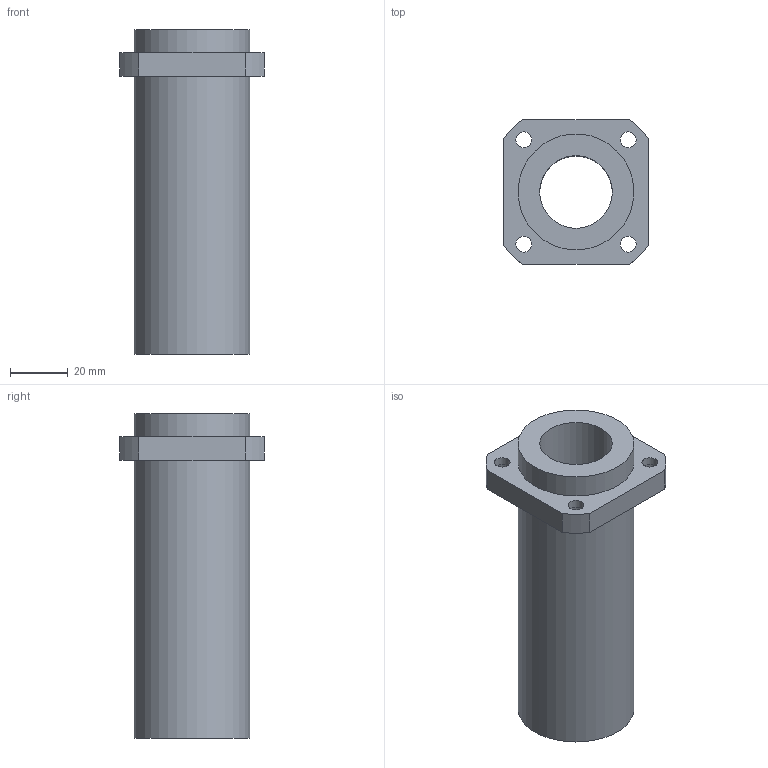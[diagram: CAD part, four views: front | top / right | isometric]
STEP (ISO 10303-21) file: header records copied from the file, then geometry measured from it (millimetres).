
FILE_DESCRIPTION(/* description */ (''),/* implementation_level */ '2;1');
FILE_NAME(/* name */ 'LMKP25LUU',/* time_stamp */ '2019-07-10T14:02:33+02:00',/* author */ ('VĂ©gh MĂˇtĂ©'),/* organization */ ('Bearing Kft'),/* preprocessor_version */ 'ST-DEVELOPER v16.7',/* originating_system */ 'DEX',/* authorisation */ $);
FILE_SCHEMA (('AUTOMOTIVE_DESIGN {1 0 10303 214 3 1 1}'));
Length unit declared in the file: millimetre
Products named in the file (1): LMKP25LUU
Bounding box: 50 x 50 x 112 mm (x, y, z)
Volume: 93498.8 mm3; surface area: 27801.7 mm2
Topology: 1 solids, 1 shells, 349 faces, 883 edges, 590 vertices
Faces by surface type: plane 269, bspline 63, cylinder 17
Full cylindrical faces by diameter (mm): 5.5 x4, 9 x4, 25 x1, 40 x2
Entity records: 13057 total; most frequent: CARTESIAN_POINT 5044, ORIENTED_EDGE 1734, DIRECTION 1349, EDGE_CURVE 867, LINE 707, VECTOR 707, VERTEX_POINT 586, EDGE_LOOP 425
